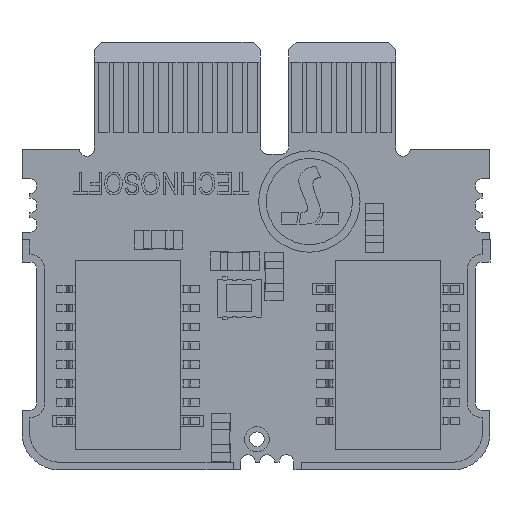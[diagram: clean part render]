
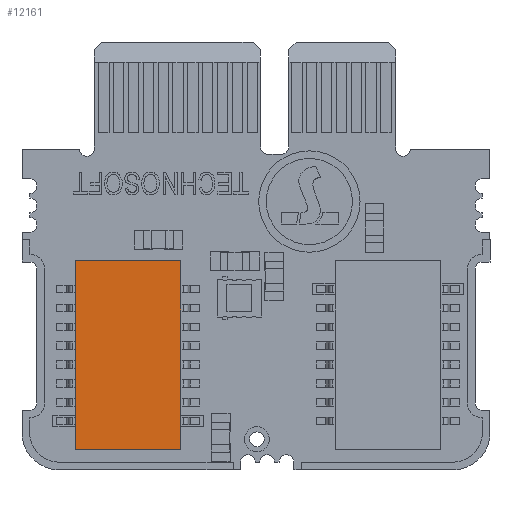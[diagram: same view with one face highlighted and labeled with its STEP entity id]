
A CAD part, front view. The second image highlights one B-rep face of the part: STEP entity #12161.
In plain terms, the highlighted planar face has unit normal (0, -1, 0).
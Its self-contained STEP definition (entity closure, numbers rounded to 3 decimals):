
#2807 = LINE ( 'NONE', #89901, #36325 ) ;
#5757 = ORIENTED_EDGE ( 'NONE', *, *, #79638, .T. ) ;
#10703 = DIRECTION ( 'NONE',  ( 0., 0., 1. ) ) ;
#12161 = ADVANCED_FACE ( 'NONE', ( #61423 ), #39109, .T. ) ;
#21508 = CARTESIAN_POINT ( 'NONE',  ( -9.22, -10.839, -16.445 ) ) ;
#24766 = DIRECTION ( 'NONE',  ( 0., 0., -1. ) ) ;
#28087 = CARTESIAN_POINT ( 'NONE',  ( -2.12, -10.839, -16.445 ) ) ;
#28106 = CARTESIAN_POINT ( 'NONE',  ( -9.22, -10.839, -29.145 ) ) ;
#31251 = LINE ( 'NONE', #74050, #58058 ) ;
#32938 = DIRECTION ( 'NONE',  ( 0., 0., 1. ) ) ;
#36325 = VECTOR ( 'NONE', #32938, 1000. ) ;
#38685 = ORIENTED_EDGE ( 'NONE', *, *, #58453, .T. ) ;
#38908 = LINE ( 'NONE', #75436, #84824 ) ;
#39109 = PLANE ( 'NONE',  #58387 ) ;
#43038 = CARTESIAN_POINT ( 'NONE',  ( -9.22, -10.839, -16.445 ) ) ;
#43815 = ORIENTED_EDGE ( 'NONE', *, *, #45081, .T. ) ;
#45081 = EDGE_CURVE ( 'NONE', #49494, #88398, #38908, .T. ) ;
#49494 = VERTEX_POINT ( 'NONE', #21508 ) ;
#50983 = ORIENTED_EDGE ( 'NONE', *, *, #66127, .T. ) ;
#51440 = VERTEX_POINT ( 'NONE', #79689 ) ;
#53417 = VERTEX_POINT ( 'NONE', #28087 ) ;
#58058 = VECTOR ( 'NONE', #66206, 1000. ) ;
#58387 = AXIS2_PLACEMENT_3D ( 'NONE', #61936, #82322, #10703 ) ;
#58453 = EDGE_CURVE ( 'NONE', #53417, #49494, #75171, .T. ) ;
#61423 = FACE_OUTER_BOUND ( 'NONE', #88499, .T. ) ;
#61936 = CARTESIAN_POINT ( 'NONE',  ( -2.12, -10.839, -29.145 ) ) ;
#66127 = EDGE_CURVE ( 'NONE', #51440, #53417, #2807, .T. ) ;
#66206 = DIRECTION ( 'NONE',  ( 1., 0., 0. ) ) ;
#74050 = CARTESIAN_POINT ( 'NONE',  ( -9.22, -10.839, -29.145 ) ) ;
#75171 = LINE ( 'NONE', #43038, #81903 ) ;
#75436 = CARTESIAN_POINT ( 'NONE',  ( -9.22, -10.839, -29.145 ) ) ;
#79638 = EDGE_CURVE ( 'NONE', #88398, #51440, #31251, .T. ) ;
#79689 = CARTESIAN_POINT ( 'NONE',  ( -2.12, -10.839, -29.145 ) ) ;
#81903 = VECTOR ( 'NONE', #86575, 1000. ) ;
#82322 = DIRECTION ( 'NONE',  ( 0., -1., 0. ) ) ;
#84824 = VECTOR ( 'NONE', #24766, 1000. ) ;
#86575 = DIRECTION ( 'NONE',  ( -1., 0., 0. ) ) ;
#88398 = VERTEX_POINT ( 'NONE', #28106 ) ;
#88499 = EDGE_LOOP ( 'NONE', ( #5757, #50983, #38685, #43815 ) ) ;
#89901 = CARTESIAN_POINT ( 'NONE',  ( -2.12, -10.839, -29.145 ) ) ;
